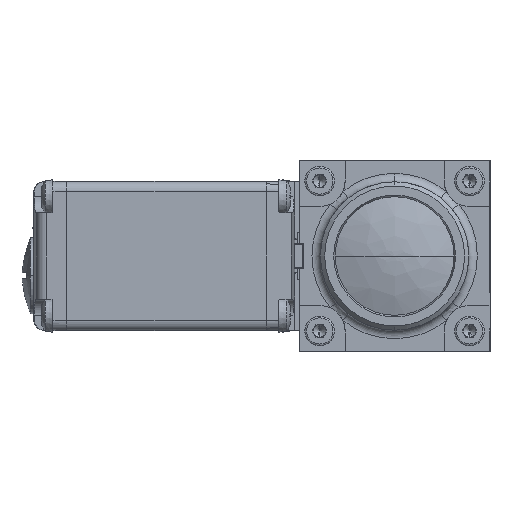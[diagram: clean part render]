
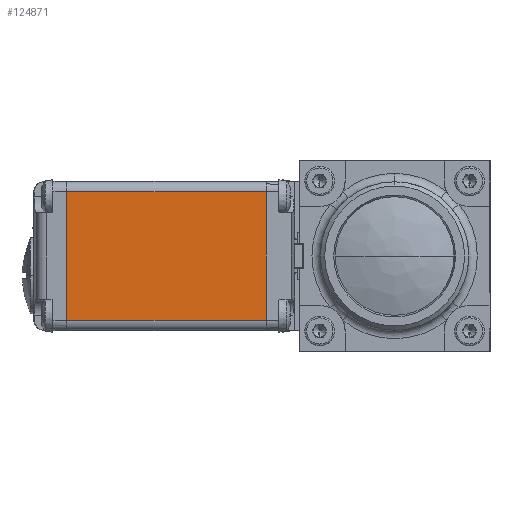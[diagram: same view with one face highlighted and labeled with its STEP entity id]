
A CAD part, left-side view. The second image highlights one B-rep face of the part: STEP entity #124871.
In plain terms, the highlighted planar face has unit normal (-1, 0, 0).
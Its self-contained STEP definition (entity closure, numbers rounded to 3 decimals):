
#1729 = FACE_OUTER_BOUND ( 'NONE', #131230, .T. ) ;
#1734 = AXIS2_PLACEMENT_3D ( 'NONE', #6517, #6518, #6519 ) ;
#6516 = PLANE ( 'NONE',  #1734 ) ;
#6517 = CARTESIAN_POINT ( 'NONE',  ( -9.2, 77.3, 0. ) ) ;
#6518 = DIRECTION ( 'NONE',  ( 1., 0., 0. ) ) ;
#6519 = DIRECTION ( 'NONE',  ( 0., 0., 1. ) ) ;
#11697 = CARTESIAN_POINT ( 'NONE',  ( -9.2, 77.3, -15.15 ) ) ;
#11699 = CARTESIAN_POINT ( 'NONE',  ( -9.2, 77.3, 15.15 ) ) ;
#12124 = CARTESIAN_POINT ( 'NONE',  ( -9.2, 30.3, 15.15 ) ) ;
#12126 = CARTESIAN_POINT ( 'NONE',  ( -9.2, 30.3, -15.15 ) ) ;
#44431 = VECTOR ( 'NONE', #51117, 1000. ) ;
#51115 = LINE ( 'NONE', #51116, #44431 ) ;
#51116 = CARTESIAN_POINT ( 'NONE',  ( -9.2, 30.3, 0. ) ) ;
#51117 = DIRECTION ( 'NONE',  ( 0., 0., -1. ) ) ;
#57748 = VECTOR ( 'NONE', #60794, 1000. ) ;
#57751 = VECTOR ( 'NONE', #60803, 1000. ) ;
#57752 = VECTOR ( 'NONE', #60806, 1000. ) ;
#60792 = LINE ( 'NONE', #60793, #57748 ) ;
#60793 = CARTESIAN_POINT ( 'NONE',  ( -9.2, 77.3, 0. ) ) ;
#60794 = DIRECTION ( 'NONE',  ( 0., 0., -1. ) ) ;
#60801 = LINE ( 'NONE', #60802, #57751 ) ;
#60802 = CARTESIAN_POINT ( 'NONE',  ( -9.2, 77.3, 15.15 ) ) ;
#60803 = DIRECTION ( 'NONE',  ( 0., -1., 0. ) ) ;
#60804 = LINE ( 'NONE', #60805, #57752 ) ;
#60805 = CARTESIAN_POINT ( 'NONE',  ( -9.2, 77.3, -15.15 ) ) ;
#60806 = DIRECTION ( 'NONE',  ( 0., -1., 0. ) ) ;
#84361 = EDGE_CURVE ( 'NONE', #134010, #134014, #51115, .T. ) ;
#90052 = EDGE_CURVE ( 'NONE', #131492, #131491, #60792, .T. ) ;
#90055 = EDGE_CURVE ( 'NONE', #131492, #134010, #60801, .T. ) ;
#90056 = EDGE_CURVE ( 'NONE', #131491, #134014, #60804, .T. ) ;
#93045 = ORIENTED_EDGE ( 'NONE', *, *, #90056, .T. ) ;
#93048 = ORIENTED_EDGE ( 'NONE', *, *, #84361, .F. ) ;
#93050 = ORIENTED_EDGE ( 'NONE', *, *, #90055, .F. ) ;
#93053 = ORIENTED_EDGE ( 'NONE', *, *, #90052, .T. ) ;
#124871 = ADVANCED_FACE ( 'NONE', ( #1729 ), #6516, .F. ) ;
#131230 = EDGE_LOOP ( 'NONE', ( #93048, #93050, #93053, #93045 ) ) ;
#131491 = VERTEX_POINT ( 'NONE', #11697 ) ;
#131492 = VERTEX_POINT ( 'NONE', #11699 ) ;
#134010 = VERTEX_POINT ( 'NONE', #12124 ) ;
#134014 = VERTEX_POINT ( 'NONE', #12126 ) ;
